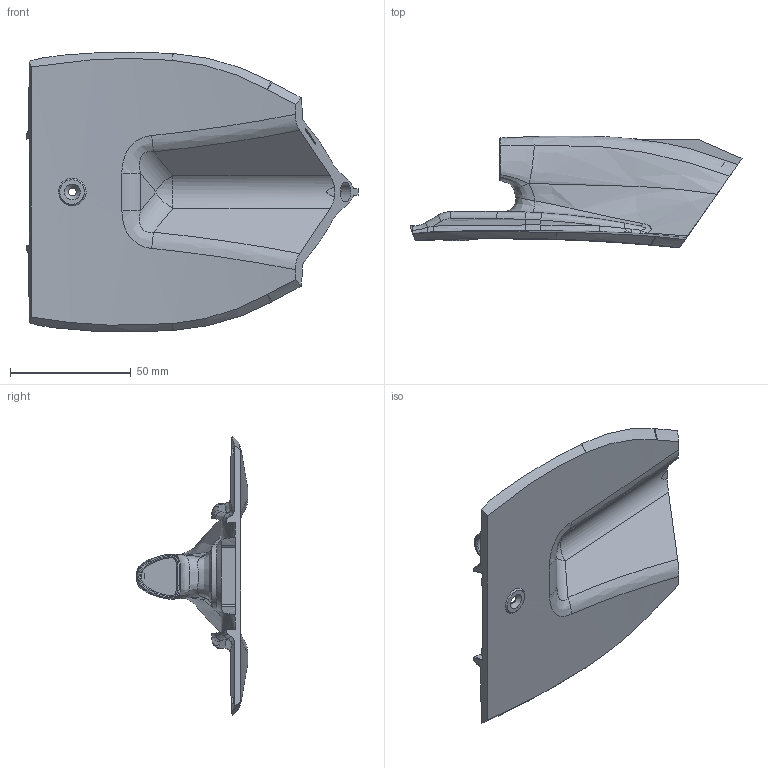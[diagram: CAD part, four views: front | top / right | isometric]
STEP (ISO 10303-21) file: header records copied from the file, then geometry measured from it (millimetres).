
FILE_DESCRIPTION(/* description */ (''),/* implementation_level */ '2;1');
FILE_NAME(/* name */ 'C:/Users/danie/Dropbox/OpenRC Formula 1 STL files/Dual Extrusion Files/Lid Lower.stp',/* time_stamp */ '2016-05-30T22:58:53+02:00',/* author */ (''),/* organization */ (''),/* preprocessor_version */ 'ST-DEVELOPER v16.5',/* originating_system */ 'Autodesk Translation Framework v5.0.0.3310',/* authorisation */ '');
FILE_SCHEMA (('AUTOMOTIVE_DESIGN { 1 0 10303 214 3 1 1 }'));
Products named in the file (1): Lid Lower
Bounding box: 137.48 x 46.25 x 115.86 mm (x, y, z)
Volume: 79392 mm3; surface area: 35311.6 mm2
Topology: 1 solids, 1 shells, 990 faces, 2706 edges, 1787 vertices
Faces by surface type: bspline 617, plane 343, cylinder 24, torus 4, cone 1, sphere 1
Full cylindrical faces by diameter (mm): 3.3 x1, 8 x1
Entity records: 44570 total; most frequent: CARTESIAN_POINT 23688, ORIENTED_EDGE 5400, EDGE_CURVE 2700, DIRECTION 2333, VERTEX_POINT 1786, LINE 1363, VECTOR 1363, B_SPLINE_CURVE_WITH_KNOTS 1213
